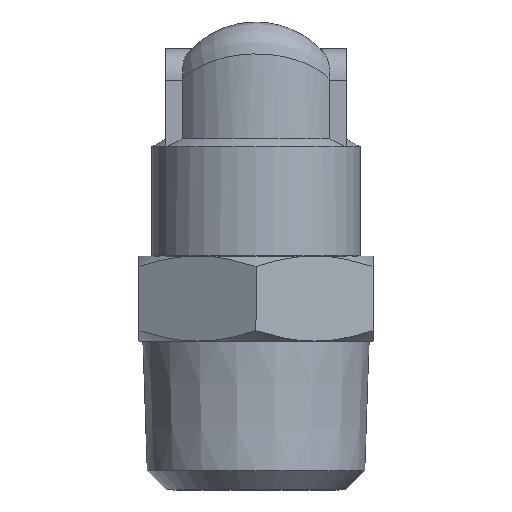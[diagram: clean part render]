
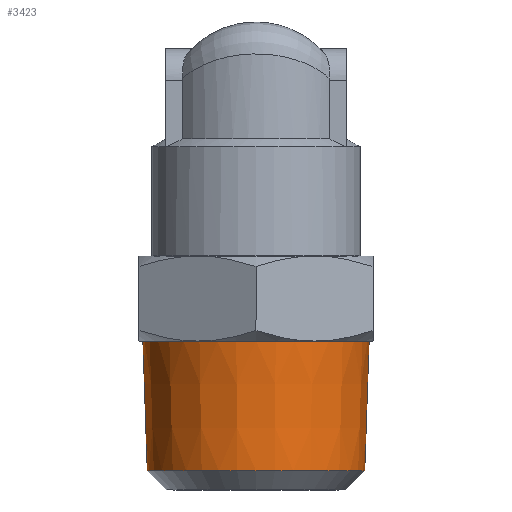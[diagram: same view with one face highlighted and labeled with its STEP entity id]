
A CAD part, left-side view. The second image highlights one B-rep face of the part: STEP entity #3423.
In plain terms, the highlighted conical face has half-angle 1.918 degrees and reference radius 10.634 mm.
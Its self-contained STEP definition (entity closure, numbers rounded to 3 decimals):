
#1807=CONICAL_SURFACE('',#3195,10.634,1.918);
#1839=ORIENTED_EDGE('',*,*,#2342,.F.);
#1840=ORIENTED_EDGE('',*,*,#2343,.F.);
#2159=CIRCLE('',#3196,10.225);
#2160=CIRCLE('',#3197,10.634);
#2230=VERTEX_POINT('',#3522);
#2231=VERTEX_POINT('',#3524);
#2342=EDGE_CURVE('',#2230,#2230,#2159,.T.);
#2343=EDGE_CURVE('',#2231,#2231,#2160,.T.);
#2502=EDGE_LOOP('',(#1839));
#2503=EDGE_LOOP('',(#1840));
#2632=FACE_BOUND('',#2502,.T.);
#2633=FACE_BOUND('',#2503,.T.);
#2766=DIRECTION('',(0.,1.,0.));
#2767=DIRECTION('',(0.,0.,1.));
#2768=DIRECTION('',(0.,-1.,0.));
#2769=DIRECTION('',(0.,0.,10.225));
#2770=DIRECTION('',(0.,1.,0.));
#2771=DIRECTION('',(0.,0.,-10.634));
#3195=AXIS2_PLACEMENT_3D('',#3521,#2766,#2767);
#3196=AXIS2_PLACEMENT_3D('',#3523,#2768,#2769);
#3197=AXIS2_PLACEMENT_3D('',#3525,#2770,#2771);
#3423=ADVANCED_FACE('',(#2632,#2633),#1807,.T.);
#3521=CARTESIAN_POINT('',(24.827,22.798,0.));
#3522=CARTESIAN_POINT('',(24.827,10.602,10.225));
#3523=CARTESIAN_POINT('',(24.827,10.602,0.));
#3524=CARTESIAN_POINT('',(24.827,22.798,-10.634));
#3525=CARTESIAN_POINT('',(24.827,22.798,0.));
